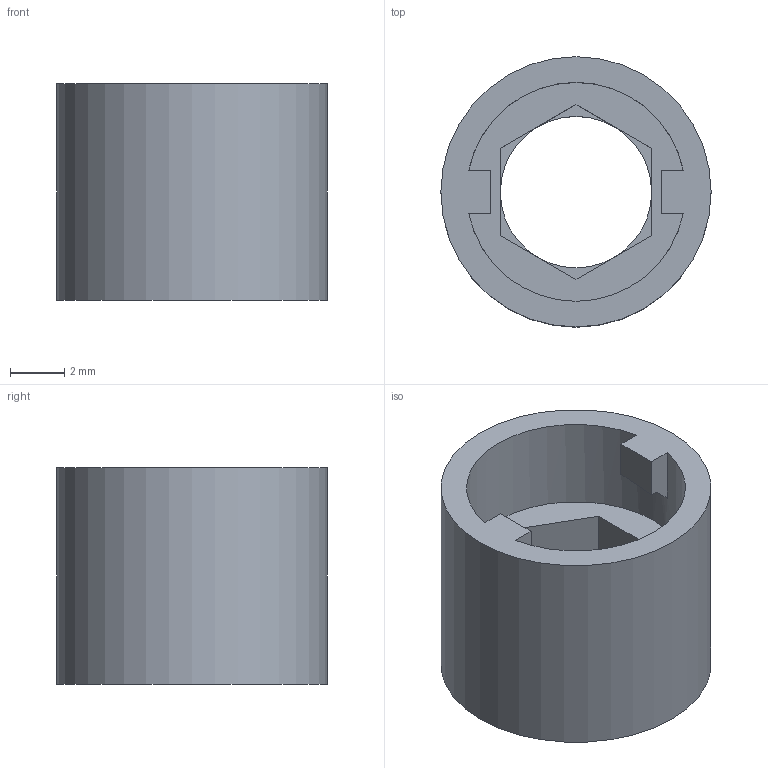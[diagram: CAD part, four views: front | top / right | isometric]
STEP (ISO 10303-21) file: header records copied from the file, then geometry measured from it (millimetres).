
FILE_DESCRIPTION(/* description */ ('Alibre Inc.'),/* implementation_level */ '2;1');
FILE_NAME(/* name */ 'export-BE034F4E-C074-47C3-AA10-CC8E2FCD849E',/* time_stamp */ '2023-05-25T19:38:14+01:00',/* author */ (''),/* organization */ (''),/* preprocessor_version */ 'ST-DEVELOPER v17',/* originating_system */ 'Alibre',/* authorisation */ '');
FILE_SCHEMA (('AUTOMOTIVE_DESIGN'));
Length unit declared in the file: millimetre
Bounding box: 10 x 10 x 8 mm (x, y, z)
Volume: 334.1 mm3; surface area: 542.6 mm2
Topology: 1 solids, 1 shells, 28 faces, 68 edges, 43 vertices
Faces by surface type: plane 23, cylinder 3, bspline 2
Full cylindrical faces by diameter (mm): 5.6 x1, 8.1 x1, 10 x1
Entity records: 867 total; most frequent: CARTESIAN_POINT 268, ORIENTED_EDGE 128, DIRECTION 92, EDGE_CURVE 64, VERTEX_POINT 42, VECTOR 38, LINE 38, AXIS2_PLACEMENT_3D 36
